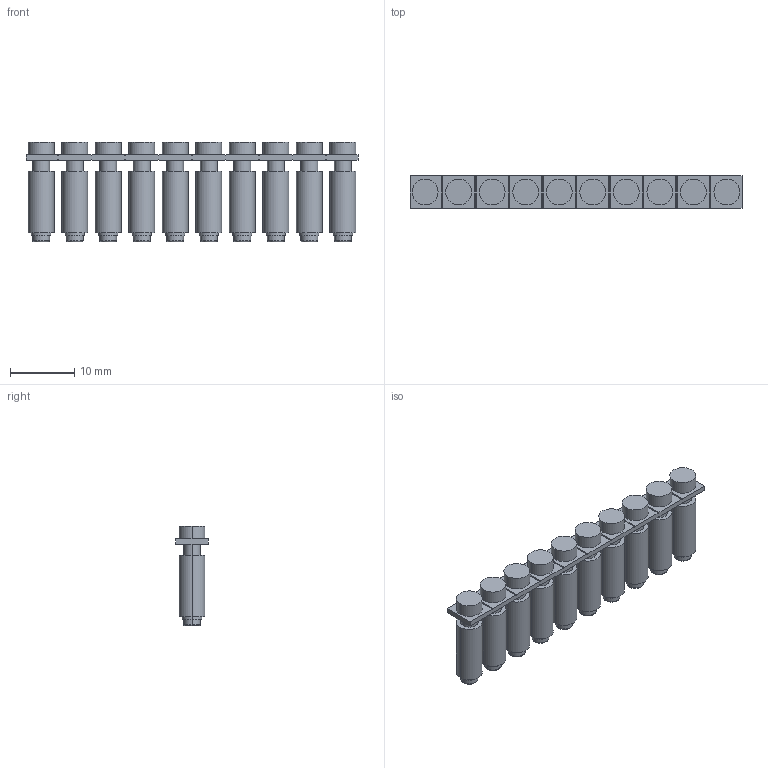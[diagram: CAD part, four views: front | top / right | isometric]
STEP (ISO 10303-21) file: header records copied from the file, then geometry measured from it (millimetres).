
FILE_DESCRIPTION((''),'2;1');
FILE_NAME('ASM0001_ASM','2022-04-18T18:48:58',('Administrator'),(''),'CREO PARAMETRIC BY PTC INC, 2017110','CREO PARAMETRIC BY PTC INC, 2017110','');
FILE_SCHEMA(('CONFIG_CONTROL_DESIGN'));
Length unit declared in the file: millimetre
Products named in the file (4): PRT0008; PRT0007; PRT0006; ASM0001_ASM
Assembly tree (21 placements, depth 2):
  ASM0001_ASM
    PRT0008
    PRT0007  x10
    PRT0006  x10
Bounding box: 51.5 x 5 x 15.5 mm (x, y, z)
Volume: 624.9 mm3; surface area: 4528.9 mm2
Topology: 11 solids, 21 shells, 338 faces, 748 edges, 492 vertices
Faces by surface type: cylinder 178, plane 140, torus 20
Entity records: 4186 total; most frequent: DIRECTION 736, CARTESIAN_POINT 703, ORIENTED_EDGE 668, EDGE_CURVE 334, AXIS2_PLACEMENT_3D 255, VECTOR 226, LINE 226, VERTEX_POINT 222
